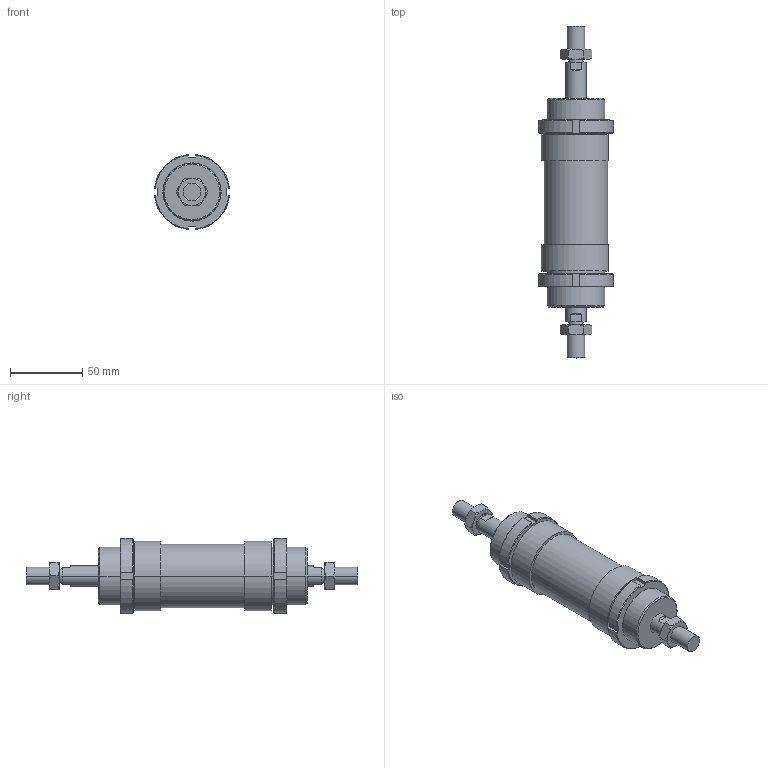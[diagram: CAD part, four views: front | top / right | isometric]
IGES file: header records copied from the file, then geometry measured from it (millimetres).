
Global section: file name: No Iges File Name specified; native system: AutoDesk Inventor R6.0; preprocessor: AutoDesk Inventor Iges Exporter R6.0; author: No Author specified; organization: No Organization specified; date: 20030403.072756; units: millimetre
Bounding box: 51.76 x 229 x 51.76 mm (x, y, z)
Volume: 242672.1 mm3; surface area: 51570.1 mm2
Topology: 6 solids, 6 shells, 182 faces, 424 edges, 264 vertices
Faces by surface type: plane 66, cone 52, bspline 30, cylinder 28, revolution 6
